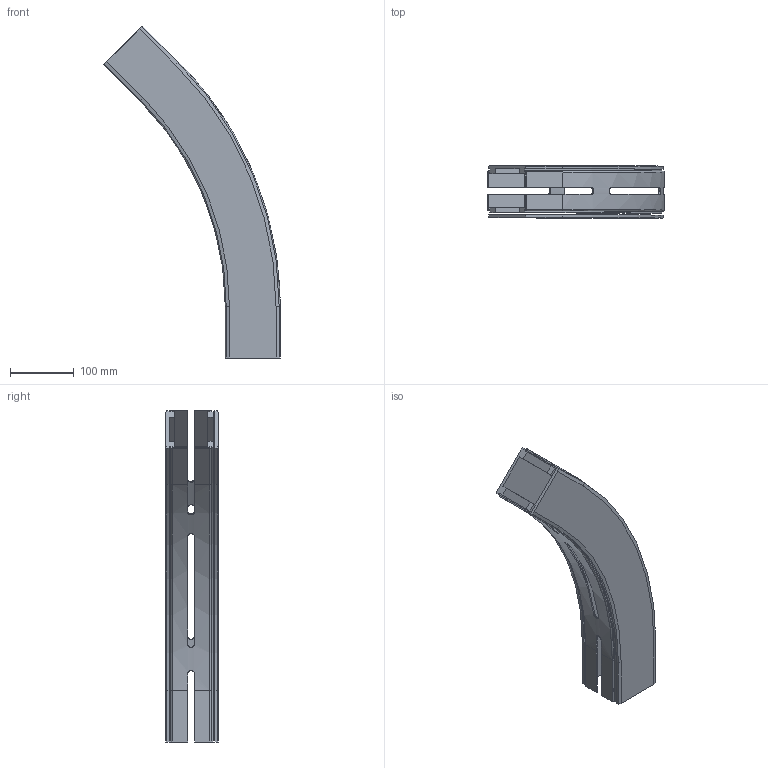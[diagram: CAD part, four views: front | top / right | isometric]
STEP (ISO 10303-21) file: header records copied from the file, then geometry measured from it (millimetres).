
FILE_DESCRIPTION(/* description */ ('GLIDKURVA SERIE 530'),/* implementation_level */ '2;1');
FILE_NAME(/* name */ '530-5375+830-2000-01.stp',/* time_stamp */ '2022-09-20T15:14:19+02:00',/* author */ ('Mathias.Dore'),/* organization */ ('CARRYLINE'),/* preprocessor_version */ 'ST-DEVELOPER v19.2',/* originating_system */ 'Autodesk Inventor 2023',/* authorisation */ '');
FILE_SCHEMA (('AUTOMOTIVE_DESIGN { 1 0 10303 214 3 1 1 }'));
Length unit declared in the file: millimetre
Products named in the file (1): 530-5375+830-2000-01
Bounding box: 276.42 x 82 x 520.53 mm (x, y, z)
Volume: 799924.1 mm3; surface area: 383550.7 mm2
Topology: 2 solids, 2 shells, 175 faces, 482 edges, 316 vertices
Faces by surface type: plane 117, cylinder 28, bspline 22, torus 4, cone 4
Entity records: 6105 total; most frequent: CARTESIAN_POINT 1608, ORIENTED_EDGE 964, DIRECTION 834, EDGE_CURVE 482, LINE 350, VECTOR 350, VERTEX_POINT 316, AXIS2_PLACEMENT_3D 242
